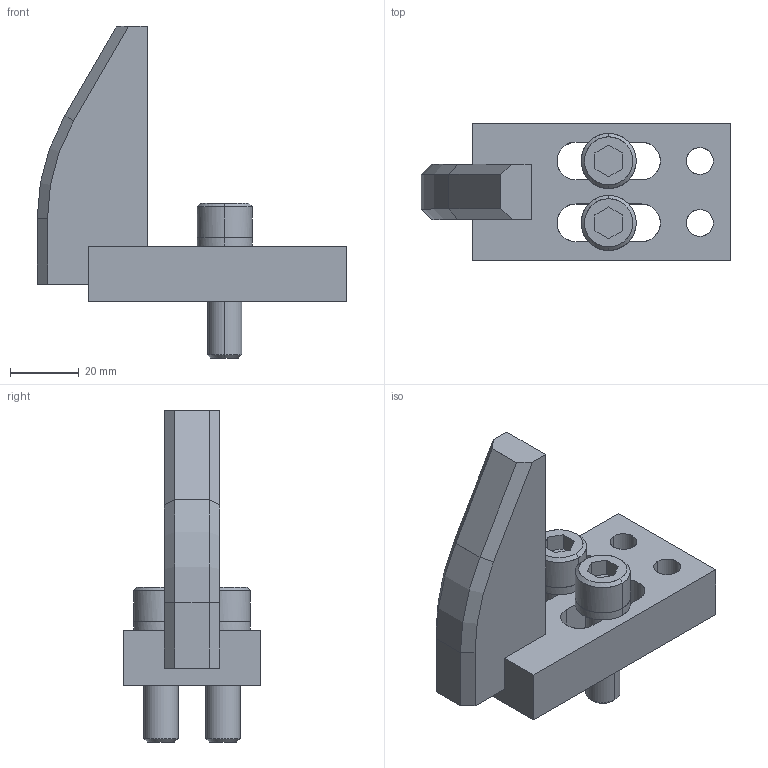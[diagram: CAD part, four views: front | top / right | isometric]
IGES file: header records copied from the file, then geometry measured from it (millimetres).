
Global section: file name: E:\UnigraphicsGraphicData\MISUMI_PRESS-PARTS\IGES\3d_ngnbc-80-40-m10_01532_r00.igs; native system: NX V5.0; preprocessor: UGS NX IGES V5.0; author: MISUMI; date: 20110105.162052; units: millimetre
Bounding box: 90 x 40 x 96.5 mm (x, y, z)
Surface area: 23903.6 mm2 (no closed solid volume)
Topology: 0 solids, 0 shells, 104 faces, 665 edges, 665 vertices
Faces by surface type: bspline 104
